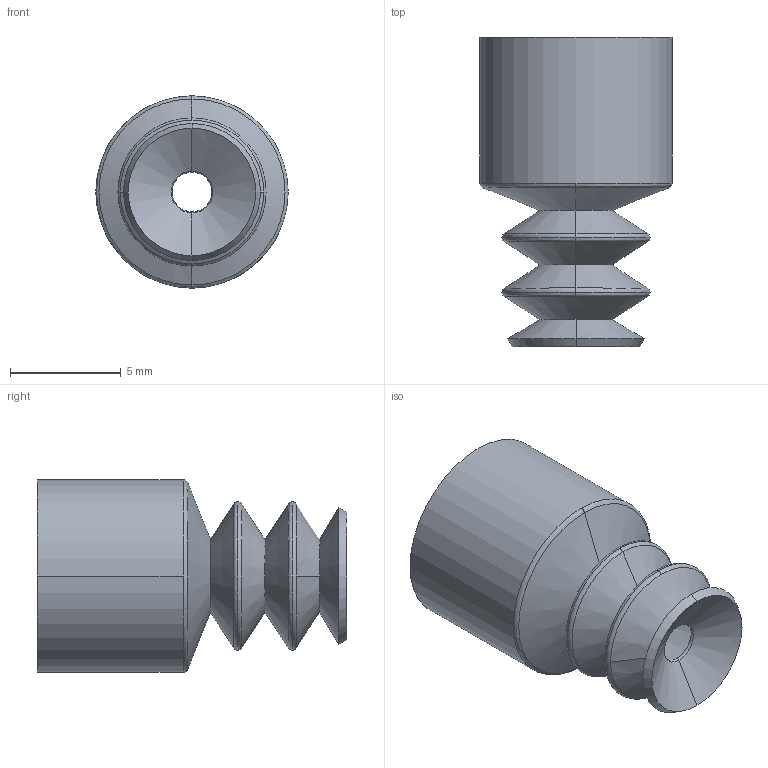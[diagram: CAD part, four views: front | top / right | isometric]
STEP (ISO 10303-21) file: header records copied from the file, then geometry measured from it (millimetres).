
FILE_DESCRIPTION (( 'STEP AP214' ), '1' );
FILE_NAME ('FG-7.STEP', '2023-03-07T06:40:43', ( 'Windows User' ), ( 'P R C' ), 'SwSTEP 2.0', 'SolidWorks 2019', '' );
FILE_SCHEMA (( 'AUTOMOTIVE_DESIGN' ));
Length unit declared in the file: millimetre
Products named in the file (1): FG-7
Bounding box: 8.7 x 14 x 8.7 mm (x, y, z)
Volume: 374.7 mm3; surface area: 693.6 mm2
Topology: 1 solids, 1 shells, 47 faces, 102 edges, 56 vertices
Faces by surface type: cone 26, bspline 16, cylinder 4, plane 1
Entity records: 1478 total; most frequent: CARTESIAN_POINT 494, DIRECTION 206, ORIENTED_EDGE 204, EDGE_CURVE 102, AXIS2_PLACEMENT_3D 88, CIRCLE 56, VERTEX_POINT 56, EDGE_LOOP 48
